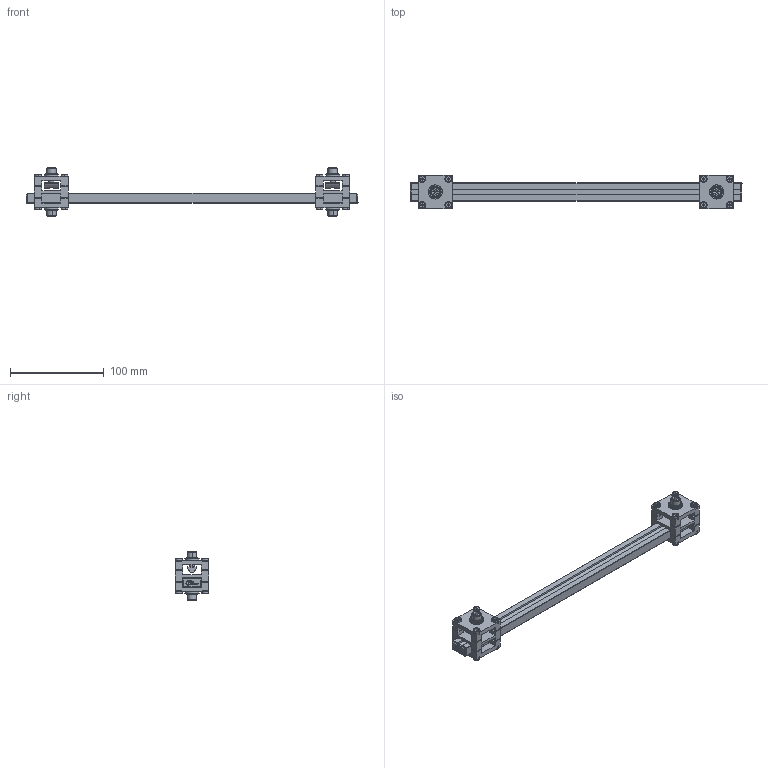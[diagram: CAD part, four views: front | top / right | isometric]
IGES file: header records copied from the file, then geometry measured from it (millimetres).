
Start section: SolidWorks IGES file using analytic representation for surfaces
Global section: file name: E:\EFCKishi\基礎フレーム\EFCK5500\IGES\EFCK-5502.IGS; native system: SolidWorks 2006 by SolidWorks Corporation; preprocessor: SolidWorks 2006 by SolidWorks Corporation; author: CAD58; date: 080913.090421; units: millimetre
Bounding box: 354 x 36 x 52.2 mm (x, y, z)
Surface area: 78644.7 mm2 (no closed solid volume)
Topology: 0 solids, 0 shells, 2101 faces, 18136 edges, 18016 vertices
Faces by surface type: bspline 1790, revolution 311
